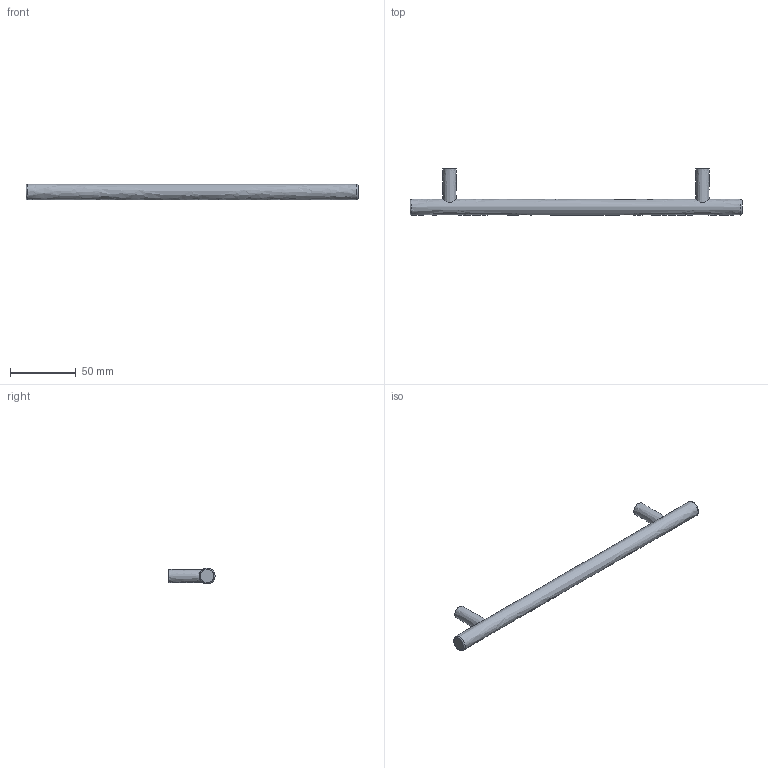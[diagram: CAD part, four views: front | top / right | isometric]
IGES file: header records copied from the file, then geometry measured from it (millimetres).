
Start section: Data from Parasolid IGES Translator 15.0.47, Copyright(c) 2006 Siemens P LM Software. All Rights Reserved.
Global section: file name: 9070765.igs; native system:  By UGS Corp.; preprocessor: XPlus GENERIC/IGES 3.0; author: Noname; organization: Noname; date: 20140123.103849; units: millimetre
Bounding box: 252 x 35 x 12 mm (x, y, z)
Surface area: 11397.9 mm2 (no closed solid volume)
Topology: 0 solids, 0 shells, 13 faces, 42 edges, 34 vertices
Faces by surface type: revolution 7, extrusion 6
